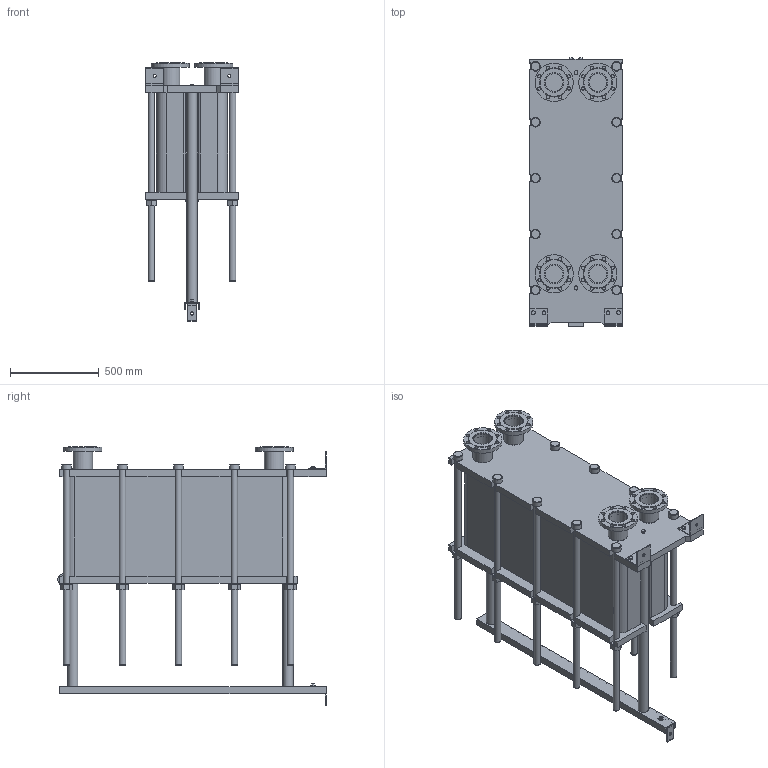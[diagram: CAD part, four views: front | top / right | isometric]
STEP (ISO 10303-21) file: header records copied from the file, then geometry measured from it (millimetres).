
FILE_DESCRIPTION(/* description */ (''),/* implementation_level */ '2;1');
FILE_NAME(/* name */ 'C:\Users\zhuro\Desktop\ENCO\TO\ЭН-04\ЭН-0,5-04-162-1.stp',/* time_stamp */ '2022-06-06T10:59:41+03:00',/* author */ ('zhuro'),/* organization */ (''),/* preprocessor_version */ 'ST-DEVELOPER v18.1',/* originating_system */ 'Autodesk Inventor 2022',/* authorisation */ '');
FILE_SCHEMA (('AUTOMOTIVE_DESIGN { 1 0 10303 214 3 1 1 }'));
Length unit declared in the file: millimetre
Products named in the file (1): ЭН-0,5-04-162-1
Bounding box: 520 x 1510 x 1456 mm (x, y, z)
Volume: 353857074.1 mm3; surface area: 9718647.8 mm2
Topology: 45 solids, 45 shells, 668 faces, 1611 edges, 1048 vertices
Faces by surface type: plane 457, cylinder 166, cone 39, torus 6
Full cylindrical faces by diameter (mm): 8 x4, 10 x2, 16 x8, 18 x35, 36 x25, 40 x2, 42 x1, 45 x4, 54 x10, 57 x2, 60 x10, 68 x2, 100 x4, 110 x8, 215 x4
Entity records: 23607 total; most frequent: CARTESIAN_POINT 7348, DIRECTION 3371, ORIENTED_EDGE 3142, EDGE_CURVE 1571, AXIS2_PLACEMENT_3D 1199, VERTEX_POINT 1044, LINE 973, VECTOR 973
